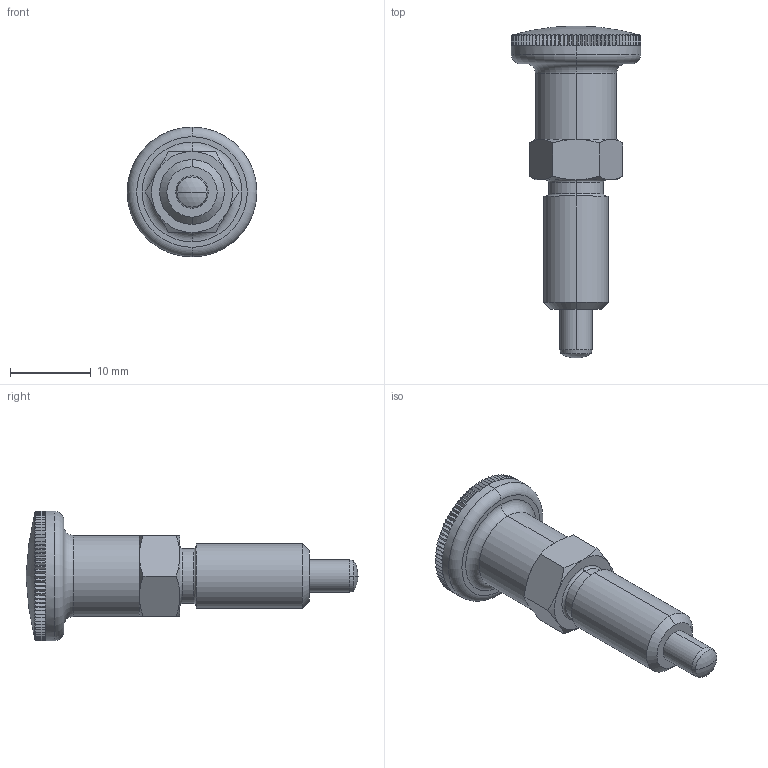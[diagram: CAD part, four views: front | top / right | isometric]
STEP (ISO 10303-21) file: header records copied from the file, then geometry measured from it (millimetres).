
FILE_DESCRIPTION (( 'STEP AP203' ), '1' );
FILE_NAME ('32690.W0124.step', '2011-03-25T12:20:51', ( 'Wixroyd' ), ( 'Wixroyd' ), 'SwSTEP 2.0', 'SolidWorks 2009', '' );
FILE_SCHEMA (( 'CONFIG_CONTROL_DESIGN' ));
Length unit declared in the file: millimetre
Products named in the file (4): Part3_3269.W124; 32690.W0124; Part1_3269.W124; Part2_3269.W124
Assembly tree (3 placements, depth 2):
  32690.W0124
    Part1_3269.W124
    Part3_3269.W124
    Part2_3269.W124
Bounding box: 16 x 41 x 16 mm (x, y, z)
Volume: 2744.8 mm3; surface area: 2800.3 mm2
Topology: 3 solids, 3 shells, 354 faces, 814 edges, 472 vertices
Faces by surface type: plane 305, cylinder 21, cone 16, torus 8, sphere 4
Entity records: 10352 total; most frequent: DIRECTION 1870, CARTESIAN_POINT 1766, ORIENTED_EDGE 1628, EDGE_CURVE 814, AXIS2_PLACEMENT_3D 720, VERTEX_POINT 472, VECTOR 430, LINE 430
